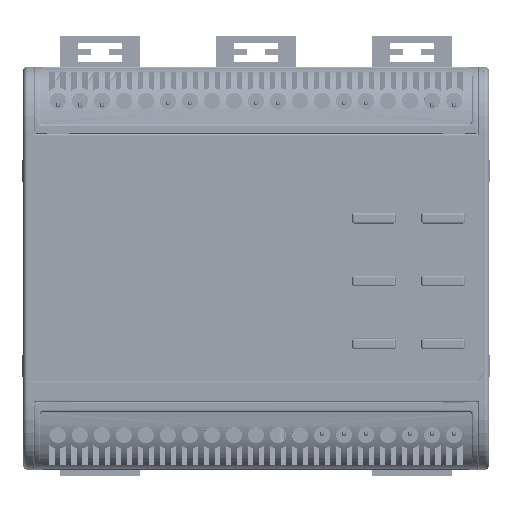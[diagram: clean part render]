
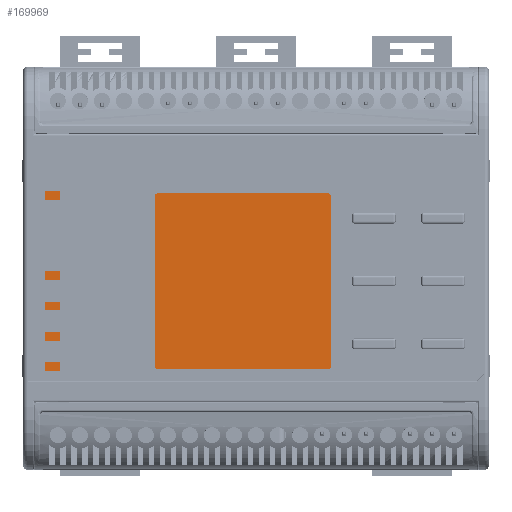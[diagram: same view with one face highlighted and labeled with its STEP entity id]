
A CAD part, top view. The second image highlights one B-rep face of the part: STEP entity #169969.
In plain terms, the highlighted planar face has unit normal (0, 0, 1).
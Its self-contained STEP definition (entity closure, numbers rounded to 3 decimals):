
#318 = CARTESIAN_POINT ( 'NONE',  ( 106.2, 19.95, 109.45 ) ) ;
#14367 = DIRECTION ( 'NONE',  ( 0., 1., 0. ) ) ;
#15081 = CARTESIAN_POINT ( 'NONE',  ( 106.2, 19.95, 109.45 ) ) ;
#19664 = CARTESIAN_POINT ( 'NONE',  ( 104.707, -25.95, 109.45 ) ) ;
#20210 = CARTESIAN_POINT ( 'NONE',  ( 1.3, 19.95, 109.45 ) ) ;
#25184 = VECTOR ( 'NONE', #146712, 1000. ) ;
#28404 = PLANE ( 'NONE',  #196961 ) ;
#48365 = EDGE_CURVE ( 'NONE', #194062, #182445, #144675, .T. ) ;
#63460 = EDGE_CURVE ( 'NONE', #208915, #223146, #308153, .T. ) ;
#64270 = ORIENTED_EDGE ( 'NONE', *, *, #117350, .F. ) ;
#69996 = CARTESIAN_POINT ( 'NONE',  ( 1.3, -25.95, 109.45 ) ) ;
#74533 = EDGE_CURVE ( 'NONE', #247560, #208915, #290682, .T. ) ;
#79616 = CARTESIAN_POINT ( 'NONE',  ( 104.707, -25.95, 109.45 ) ) ;
#91622 = VECTOR ( 'NONE', #220986, 1000. ) ;
#91895 = CARTESIAN_POINT ( 'NONE',  ( 1.3, 19.95, 109.45 ) ) ;
#111344 = DIRECTION ( 'NONE',  ( 0., -1., 0. ) ) ;
#117350 = EDGE_CURVE ( 'NONE', #182445, #247560, #170074, .T. ) ;
#129197 = DIRECTION ( 'NONE',  ( 1., 0., 0. ) ) ;
#137967 = VECTOR ( 'NONE', #111344, 1000. ) ;
#144675 = LINE ( 'NONE', #91895, #304463 ) ;
#146712 = DIRECTION ( 'NONE',  ( -0.706, -0.708, 0. ) ) ;
#157154 = FACE_OUTER_BOUND ( 'NONE', #159807, .T. ) ;
#159807 = EDGE_LOOP ( 'NONE', ( #268631, #324282, #64270, #165257, #210031 ) ) ;
#163220 = EDGE_CURVE ( 'NONE', #223146, #194062, #271021, .T. ) ;
#165257 = ORIENTED_EDGE ( 'NONE', *, *, #48365, .F. ) ;
#169969 = ADVANCED_FACE ( 'NONE', ( #157154 ), #28404, .T. ) ;
#170074 = LINE ( 'NONE', #15081, #91622 ) ;
#173201 = VECTOR ( 'NONE', #243104, 1000. ) ;
#182445 = VERTEX_POINT ( 'NONE', #20210 ) ;
#194062 = VERTEX_POINT ( 'NONE', #253519 ) ;
#196961 = AXIS2_PLACEMENT_3D ( 'NONE', #283695, #235972, #129197 ) ;
#205487 = CARTESIAN_POINT ( 'NONE',  ( 106.2, -24.453, 109.45 ) ) ;
#208915 = VERTEX_POINT ( 'NONE', #205487 ) ;
#210031 = ORIENTED_EDGE ( 'NONE', *, *, #163220, .F. ) ;
#220986 = DIRECTION ( 'NONE',  ( 1., 0., 0. ) ) ;
#223146 = VERTEX_POINT ( 'NONE', #79616 ) ;
#235972 = DIRECTION ( 'NONE',  ( 0., 0., 1. ) ) ;
#243104 = DIRECTION ( 'NONE',  ( -1., 0., 0. ) ) ;
#247560 = VERTEX_POINT ( 'NONE', #318 ) ;
#253519 = CARTESIAN_POINT ( 'NONE',  ( 1.3, -25.95, 109.45 ) ) ;
#259553 = CARTESIAN_POINT ( 'NONE',  ( 106.2, -24.453, 109.45 ) ) ;
#268631 = ORIENTED_EDGE ( 'NONE', *, *, #63460, .F. ) ;
#271021 = LINE ( 'NONE', #69996, #173201 ) ;
#283695 = CARTESIAN_POINT ( 'NONE',  ( 53.75, -3., 109.45 ) ) ;
#290682 = LINE ( 'NONE', #259553, #137967 ) ;
#304463 = VECTOR ( 'NONE', #14367, 1000. ) ;
#308153 = LINE ( 'NONE', #19664, #25184 ) ;
#324282 = ORIENTED_EDGE ( 'NONE', *, *, #74533, .F. ) ;
